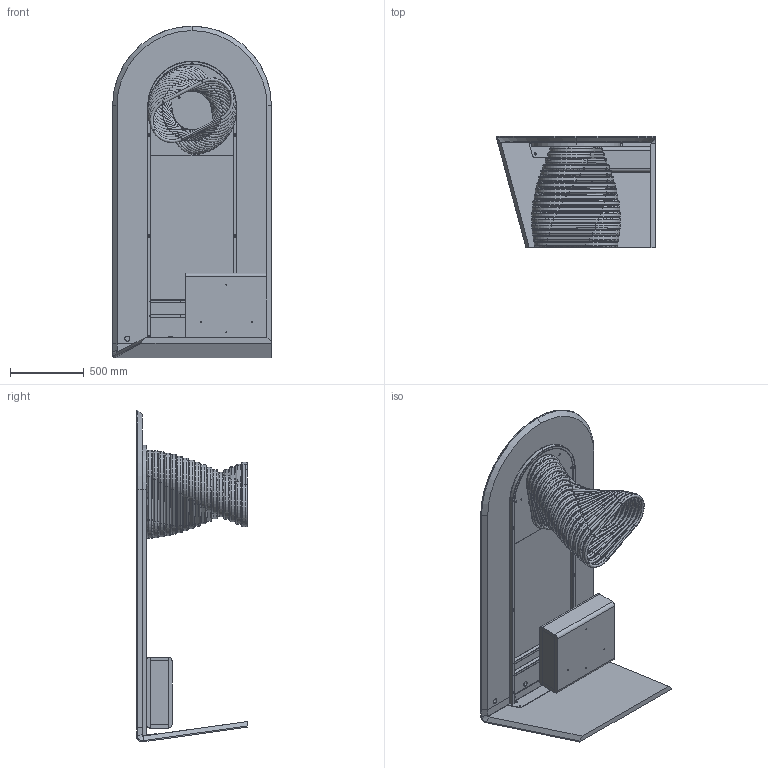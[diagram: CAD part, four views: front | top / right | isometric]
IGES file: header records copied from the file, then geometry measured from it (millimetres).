
Start section: SolidWorks IGES file using analytic representation for surfaces
Global section: file name: Y:\eforma\TECNICO\SOLIDWORKS\E-FORMA\7-SCRIVANIE\DESK\02 parts\RD70C_Cilindro Desk_225x108x75h_Ceramic.IGS; native system: SolidWorks 2022; preprocessor: SolidWorks 2022; author: eforma.tech; date: 240806.091039; units: millimetre
Bounding box: 1075 x 750 x 2245 mm (x, y, z)
Volume: 134552715.6 mm3; surface area: 18978100.5 mm2
Topology: 83 solids, 83 shells, 1311 faces, 3359 edges, 2172 vertices
Faces by surface type: revolution 833, plane 473, bspline 5
